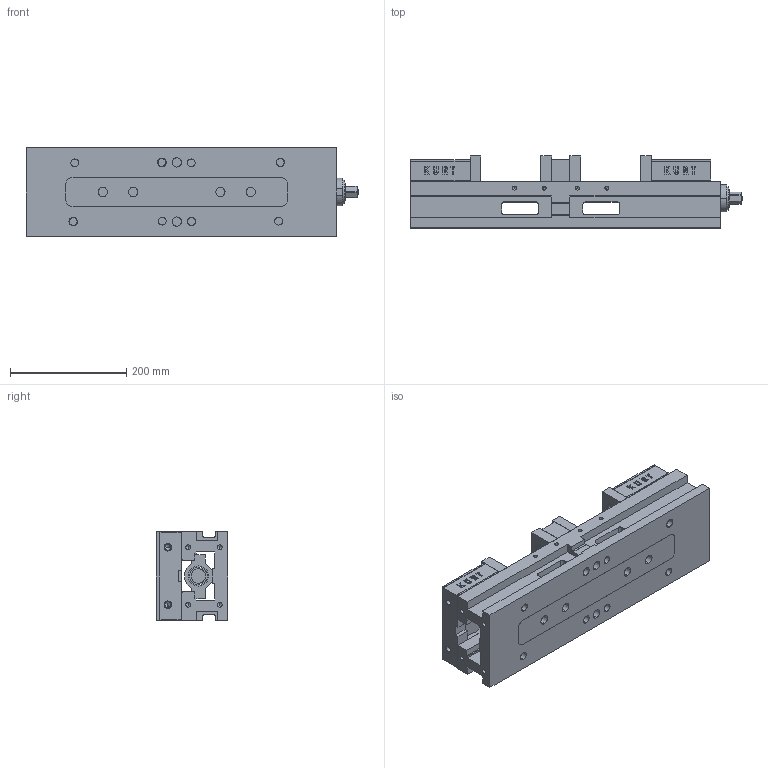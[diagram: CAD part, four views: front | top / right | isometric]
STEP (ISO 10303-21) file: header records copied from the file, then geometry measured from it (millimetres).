
FILE_DESCRIPTION (( 'STEP AP214' ), '1' );
FILE_NAME ('05-0181.STEP', '2022-02-07T16:29:04', ( '' ), ( '' ), 'SwSTEP 2.0', 'SolidWorks 2021', '' );
FILE_SCHEMA (( 'AUTOMOTIVE_DESIGN' ));
Length unit declared in the file: inch
Products named in the file (1): 05-0181
Bounding box: 570.23 x 123.44 x 152.4 mm (x, y, z)
Volume: 5144927.3 mm3; surface area: 755801.4 mm2
Topology: 20 solids, 20 shells, 841 faces, 2128 edges, 1375 vertices
Faces by surface type: plane 486, cylinder 235, cone 88, bspline 32
Entity records: 27893 total; most frequent: CARTESIAN_POINT 7183, ORIENTED_EDGE 4188, DIRECTION 4158, EDGE_CURVE 2094, LINE 1490, VECTOR 1490, VERTEX_POINT 1375, AXIS2_PLACEMENT_3D 1334
